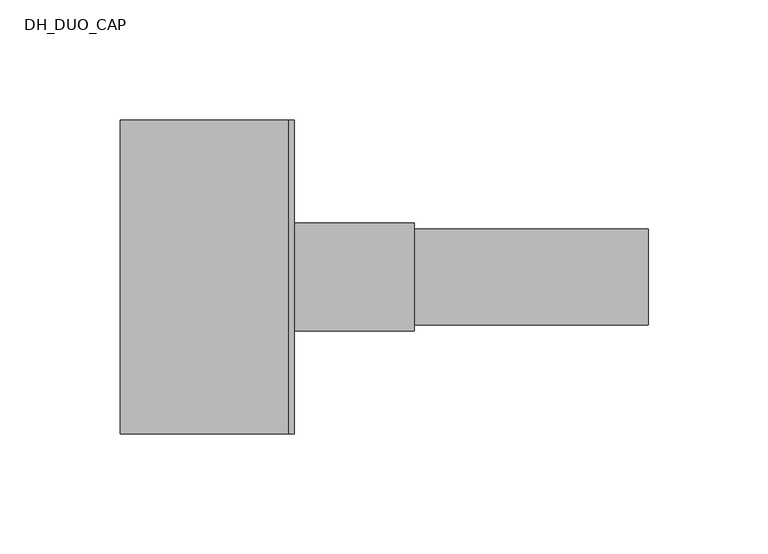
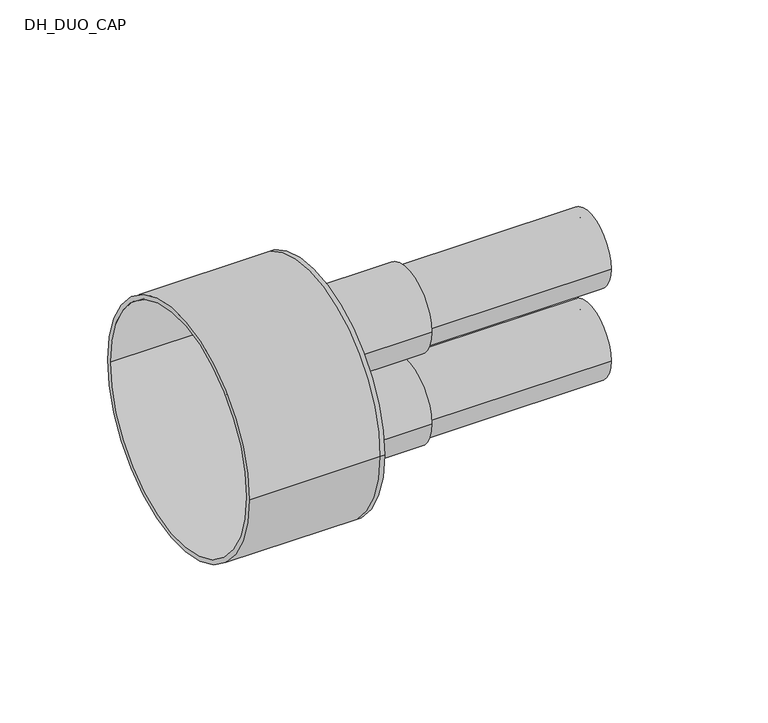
"""IFC4 building model written with IfcOpenShell, lengths in millimetres: pipe fitting geometry, DH_DUO_CAP : RAUTHERMEX DUO 7.4 Heating - Rubber Cap."""

from ifc_helpers import new_model, si_unit, point, frame, frame_2d, origin, place, context, project, spatial, polyline, circle_curve, trimmed, segment, composite_curve, outline, extrude, source, transform, mapped, element, save
from ifc_brep_helpers import plane_surface, cylinder_surface, revolved_surface, advanced_brep


def dh_duo_cap_7ef36e62(model_context):
    return source(origin(), model_context, "Body", "SolidModel", [
        extrude(outline(composite_curve([segment(trimmed(circle_curve(frame_2d((0.0, -26.0)), 20.0), [point((-20.0, -26.0))], [point((20.0, -26.0))], False, "CARTESIAN"), True, "CONTINUOUS"), segment(trimmed(circle_curve(frame_2d((0.0, -26.0)), 20.0), [point((20.0, -26.0))], [point((-20.0, -26.0))], False, "CARTESIAN"), True, "CONTINUOUS")], self_intersect=False), holes=[composite_curve([segment(trimmed(circle_curve(frame_2d((0.0, -26.0)), 14.5), [point((-14.5, -26.0))], [point((14.5, -26.0))], True, "CARTESIAN"), True, "CONTINUOUS"), segment(trimmed(circle_curve(frame_2d((0.0, -26.0)), 14.5), [point((14.5, -26.0))], [point((-14.5, -26.0))], True, "CARTESIAN"), True, "CONTINUOUS")], self_intersect=False)]), frame((0.0, 0.0, 0.0), z_axis=(1.0, 0.0, 0.0), x_axis=(0.0, 1.0, 0.0)), (0.0, 0.0, 1.0), 150.0),
        extrude(outline(composite_curve([segment(trimmed(circle_curve(frame_2d((0.0, 26.0)), 20.0), [point((-20.0, 26.0))], [point((20.0, 26.0))], False, "CARTESIAN"), True, "CONTINUOUS"), segment(trimmed(circle_curve(frame_2d((0.0, 26.0)), 20.0), [point((20.0, 26.0))], [point((-20.0, 26.0))], False, "CARTESIAN"), True, "CONTINUOUS")], self_intersect=False), holes=[composite_curve([segment(trimmed(circle_curve(frame_2d((0.0, 26.0)), 14.5), [point((-14.5, 26.0))], [point((14.5, 26.0))], True, "CARTESIAN"), True, "CONTINUOUS"), segment(trimmed(circle_curve(frame_2d((0.0, 26.0)), 14.5), [point((14.5, 26.0))], [point((-14.5, 26.0))], True, "CARTESIAN"), True, "CONTINUOUS")], self_intersect=False)]), frame((0.0, 0.0, 0.0), z_axis=(1.0, 0.0, 0.0), x_axis=(0.0, 1.0, 0.0)), (0.0, 0.0, 1.0), 150.0),
        advanced_brep(
        [(-70.0, -65.5, 0.0), (-70.0, 65.5, 0.0), (-70.0, -63.0, 0.0), (-70.0, 63.0, 0.0), (0.0, -63.0, 0.0), (0.0, 63.0, 0.0), (0.0, -65.5, 0.0), (0.0, 65.5, 0.0), (0.0, 20.0, 26.0), (0.0, -20.0, 26.0), (0.0, 20.0, -26.0), (0.0, -20.0, -26.0), (2.5, -65.5, 0.0), (2.5, 65.5, 0.0), (2.5, -20.0, 26.0), (2.5, 20.0, 26.0), (2.5, -20.0, -26.0), (2.5, 20.0, -26.0)],
        [
            (0, 1, circle_curve(frame((-70.0, 0.0, 0.0), z_axis=(-1.0, 0.0, 0.0), x_axis=(0.0, 1.0, 0.0)), 65.5)),
            (1, 0, circle_curve(frame((-70.0, 0.0, 0.0), z_axis=(-1.0, 0.0, 0.0), x_axis=(0.0, 1.0, 0.0)), 65.5)),
            (2, 3, circle_curve(frame((-70.0, 0.0, 0.0), z_axis=(1.0, 0.0, 0.0), x_axis=(0.0, 1.0, 0.0)), 63.0)),
            (3, 2, circle_curve(frame((-70.0, 0.0, 0.0), z_axis=(1.0, 0.0, 0.0), x_axis=(0.0, 1.0, 0.0)), 63.0)),
            (2, 4),
            (4, 5, circle_curve(frame((0.0, 0.0, 0.0), z_axis=(1.0, 0.0, 0.0), x_axis=(0.0, 1.0, 0.0)), 63.0)),
            (5, 3),
            (5, 4, circle_curve(frame((0.0, 0.0, 0.0), z_axis=(1.0, 0.0, 0.0), x_axis=(0.0, 1.0, 0.0)), 63.0)),
            (0, 6),
            (6, 7, circle_curve(frame((0.0, 0.0, 0.0), z_axis=(-1.0, 0.0, 0.0), x_axis=(0.0, 1.0, 0.0)), 65.5)),
            (7, 1),
            (7, 6, circle_curve(frame((0.0, 0.0, 0.0), z_axis=(-1.0, 0.0, 0.0), x_axis=(0.0, 1.0, 0.0)), 65.5)),
            (8, 9, circle_curve(frame((0.0, 0.0, 26.0), z_axis=(1.0, 0.0, 0.0), x_axis=(0.0, 1.0, 0.0)), 20.0)),
            (9, 8, circle_curve(frame((0.0, 0.0, 26.0), z_axis=(1.0, 0.0, 0.0), x_axis=(0.0, 1.0, 0.0)), 20.0)),
            (10, 11, circle_curve(frame((0.0, 0.0, -26.0), z_axis=(1.0, 0.0, 0.0), x_axis=(0.0, 1.0, 0.0)), 20.0)),
            (11, 10, circle_curve(frame((0.0, 0.0, -26.0), z_axis=(1.0, 0.0, 0.0), x_axis=(0.0, 1.0, 0.0)), 20.0)),
            (12, 13, circle_curve(frame((2.5, 0.0, 0.0), z_axis=(1.0, 0.0, 0.0), x_axis=(0.0, 1.0, 0.0)), 65.5)),
            (13, 12, circle_curve(frame((2.5, 0.0, 0.0), z_axis=(1.0, 0.0, 0.0), x_axis=(0.0, 1.0, 0.0)), 65.5)),
            (14, 15, circle_curve(frame((2.5, 0.0, 26.0), z_axis=(-1.0, 0.0, 0.0), x_axis=(0.0, 1.0, 0.0)), 20.0)),
            (15, 14, circle_curve(frame((2.5, 0.0, 26.0), z_axis=(-1.0, 0.0, 0.0), x_axis=(0.0, 1.0, 0.0)), 20.0)),
            (16, 17, circle_curve(frame((2.5, 0.0, -26.0), z_axis=(-1.0, 0.0, 0.0), x_axis=(0.0, 1.0, 0.0)), 20.0)),
            (17, 16, circle_curve(frame((2.5, 0.0, -26.0), z_axis=(-1.0, 0.0, 0.0), x_axis=(0.0, 1.0, 0.0)), 20.0)),
            (13, 7),
            (6, 12),
            (8, 15),
            (14, 9),
            (10, 17),
            (16, 11),
        ],
        [
            plane_surface(frame((-70.0, 0.0, 0.0), z_axis=(-1.0, 0.0, 0.0), x_axis=(0.0, 0.0, 1.0))),
            revolved_surface(polyline([(0.0, 63.0, 0.0), (-70.0, 63.0, 0.0)]), (-70.0, 0.0, 0.0), (1.0, 0.0, 0.0)),
            cylinder_surface(frame((-70.0, 0.0, 0.0), z_axis=(-1.0, 0.0, 0.0), x_axis=(0.0, 1.0, 0.0)), 65.5),
            plane_surface(frame((0.0, 0.0, 0.0), z_axis=(-1.0, 0.0, 0.0), x_axis=(0.0, 0.0, 1.0))),
            plane_surface(frame((2.5, 0.0, 0.0), z_axis=(1.0, 0.0, 0.0), x_axis=(0.0, 0.0, 1.0))),
            cylinder_surface(frame((0.0, 0.0, 0.0), z_axis=(-1.0, 0.0, 0.0), x_axis=(0.0, 1.0, 0.0)), 65.5),
            revolved_surface(polyline([(0.0, 20.0, 26.0), (2.5, 20.0, 26.0)]), (0.0, 0.0, 26.0), (-1.0, 0.0, 0.0)),
            revolved_surface(polyline([(0.0, 20.0, -26.0), (2.5, 20.0, -26.0)]), (0.0, 0.0, -26.0), (-1.0, 0.0, 0.0)),
        ],
        [
            (0, [[1, 2], [3, 4]]),
            (1, [[-3, 5, 6, 7]]),
            (1, [[-4, -7, 8, -5]]),
            (2, [[-1, 9, 10, 11]]),
            (2, [[-2, -11, 12, -9]]),
            (3, [[-6, -8], [13, 14], [15, 16]]),
            (4, [[17, 18], [19, 20], [21, 22]]),
            (5, [[-18, 23, -10, 24]]),
            (5, [[-17, -24, -12, -23]]),
            (6, [[25, -19, 26, -13]]),
            (6, [[-25, -14, -26, -20]]),
            (7, [[27, -21, 28, -15]]),
            (7, [[-27, -16, -28, -22]]),
        ],
    ),
        extrude(outline(composite_curve([segment(trimmed(circle_curve(frame_2d((0.0, -26.0)), 22.5), [point((-22.5, -26.0))], [point((22.5, -26.0))], False, "CARTESIAN"), True, "CONTINUOUS"), segment(trimmed(circle_curve(frame_2d((0.0, -26.0)), 22.5), [point((22.5, -26.0))], [point((-22.5, -26.0))], False, "CARTESIAN"), True, "CONTINUOUS")], self_intersect=False), holes=[composite_curve([segment(trimmed(circle_curve(frame_2d((0.0, -26.0)), 20.0), [point((-20.0, -26.0))], [point((20.0, -26.0))], True, "CARTESIAN"), True, "CONTINUOUS"), segment(trimmed(circle_curve(frame_2d((0.0, -26.0)), 20.0), [point((20.0, -26.0))], [point((-20.0, -26.0))], True, "CARTESIAN"), True, "CONTINUOUS")], self_intersect=False)]), frame((2.5, 0.0, 0.0), z_axis=(1.0, 0.0, 0.0), x_axis=(0.0, 1.0, 0.0)), (0.0, 0.0, 1.0), 50.0),
        extrude(outline(composite_curve([segment(trimmed(circle_curve(frame_2d((0.0, 26.0)), 22.5), [point((-22.5, 26.0))], [point((22.5, 26.0))], False, "CARTESIAN"), True, "CONTINUOUS"), segment(trimmed(circle_curve(frame_2d((0.0, 26.0)), 22.5), [point((22.5, 26.0))], [point((-22.5, 26.0))], False, "CARTESIAN"), True, "CONTINUOUS")], self_intersect=False), holes=[composite_curve([segment(trimmed(circle_curve(frame_2d((0.0, 26.0)), 20.0), [point((-20.0, 26.0))], [point((20.0, 26.0))], True, "CARTESIAN"), True, "CONTINUOUS"), segment(trimmed(circle_curve(frame_2d((0.0, 26.0)), 20.0), [point((20.0, 26.0))], [point((-20.0, 26.0))], True, "CARTESIAN"), True, "CONTINUOUS")], self_intersect=False)]), frame((2.5, 0.0, 0.0), z_axis=(1.0, 0.0, 0.0), x_axis=(0.0, 1.0, 0.0)), (0.0, 0.0, 1.0), 50.0),
    ])


if __name__ == "__main__":
    model = new_model("IFC4")
    model_context = context("Model", 3, world=origin())
    ifc_project = project(units=[si_unit("LENGTHUNIT", "METRE", prefix="MILLI")], contexts=[model_context])
    site = spatial("IfcSite", under=ifc_project)
    building = spatial("IfcBuilding", under=site)
    placement = place(None, origin())
    dh_duo_cap_shape = dh_duo_cap_7ef36e62(model_context)
    element("IfcPipeFitting", 1, ObjectType="DH_DUO_CAP : RAUTHERMEX DUO 7.4 Heating - Rubber Cap", at=placement, inside=building, context=model_context, shape_type="MappedRepresentation", body=[
        mapped(dh_duo_cap_shape, transform((0.0, 0.0, 0.0), x_axis=(1.0, 0.0, 0.0), y_axis=(0.0, 1.0, 0.0), z_axis=(0.0, 0.0, 1.0))),
    ])
    save(model, "model.ifc")
